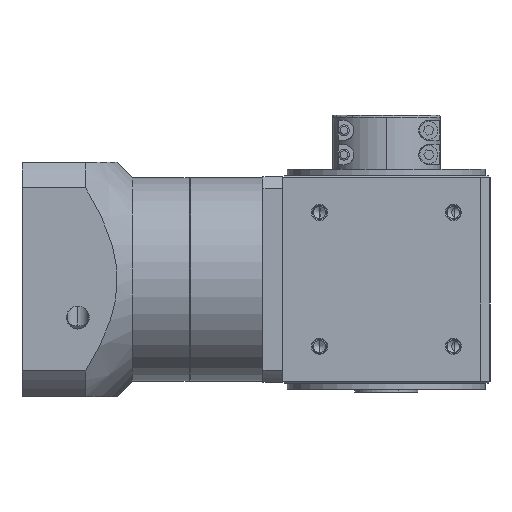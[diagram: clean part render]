
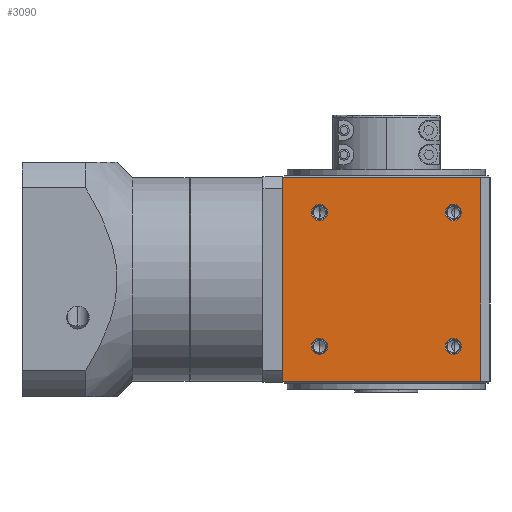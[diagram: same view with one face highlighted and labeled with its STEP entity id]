
A CAD part, front view. The second image highlights one B-rep face of the part: STEP entity #3090.
In plain terms, the highlighted planar face has unit normal (0, -1, 0).
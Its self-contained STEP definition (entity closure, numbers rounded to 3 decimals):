
#1702 = EDGE_CURVE ( 'NONE', #5080, #5050, #16520, .T. ) ;
#3015 = EDGE_LOOP ( 'NONE', ( #3085, #3089 ) ) ;
#3016 = EDGE_LOOP ( 'NONE', ( #3017, #3072 ) ) ;
#3017 = ORIENTED_EDGE ( 'NONE', *, *, #1702, .F. ) ;
#3066 = EDGE_CURVE ( 'NONE', #3069, #3078, #18999, .T. ) ;
#3068 = ORIENTED_EDGE ( 'NONE', *, *, #3066, .T. ) ;
#3069 = VERTEX_POINT ( 'NONE', #19054 ) ;
#3070 = EDGE_CURVE ( 'NONE', #3075, #3069, #19053, .T. ) ;
#3071 = EDGE_LOOP ( 'NONE', ( #3073, #3079, #3074, #3068 ) ) ;
#3072 = ORIENTED_EDGE ( 'NONE', *, *, #5079, .F. ) ;
#3073 = ORIENTED_EDGE ( 'NONE', *, *, #3077, .F. ) ;
#3074 = ORIENTED_EDGE ( 'NONE', *, *, #3070, .T. ) ;
#3075 = VERTEX_POINT ( 'NONE', #19049 ) ;
#3077 = EDGE_CURVE ( 'NONE', #3081, #3078, #19048, .T. ) ;
#3078 = VERTEX_POINT ( 'NONE', #19044 ) ;
#3079 = ORIENTED_EDGE ( 'NONE', *, *, #3080, .T. ) ;
#3080 = EDGE_CURVE ( 'NONE', #3081, #3075, #19043, .T. ) ;
#3081 = VERTEX_POINT ( 'NONE', #19039 ) ;
#3085 = ORIENTED_EDGE ( 'NONE', *, *, #3086, .F. ) ;
#3086 = EDGE_CURVE ( 'NONE', #3740, #3732, #19037, .T. ) ;
#3087 = EDGE_LOOP ( 'NONE', ( #3088, #3094 ) ) ;
#3088 = ORIENTED_EDGE ( 'NONE', *, *, #3095, .F. ) ;
#3089 = ORIENTED_EDGE ( 'NONE', *, *, #3742, .F. ) ;
#3090 = ADVANCED_FACE ( 'NONE', ( #19032, #19031, #19030, #19029, #19028 ), #19027, .F. ) ;
#3091 = EDGE_CURVE ( 'NONE', #4561, #4567, #19085, .T. ) ;
#3092 = ORIENTED_EDGE ( 'NONE', *, *, #4604, .F. ) ;
#3093 = ORIENTED_EDGE ( 'NONE', *, *, #3091, .F. ) ;
#3094 = ORIENTED_EDGE ( 'NONE', *, *, #3966, .F. ) ;
#3095 = EDGE_CURVE ( 'NONE', #3976, #3879, #19081, .T. ) ;
#3096 = EDGE_LOOP ( 'NONE', ( #3093, #3092 ) ) ;
#3732 = VERTEX_POINT ( 'NONE', #20405 ) ;
#3740 = VERTEX_POINT ( 'NONE', #20446 ) ;
#3742 = EDGE_CURVE ( 'NONE', #3732, #3740, #20445, .T. ) ;
#3879 = VERTEX_POINT ( 'NONE', #20761 ) ;
#3966 = EDGE_CURVE ( 'NONE', #3879, #3976, #20892, .T. ) ;
#3976 = VERTEX_POINT ( 'NONE', #20929 ) ;
#4561 = VERTEX_POINT ( 'NONE', #22139 ) ;
#4567 = VERTEX_POINT ( 'NONE', #22130 ) ;
#4604 = EDGE_CURVE ( 'NONE', #4567, #4561, #22215, .T. ) ;
#5050 = VERTEX_POINT ( 'NONE', #23954 ) ;
#5079 = EDGE_CURVE ( 'NONE', #5050, #5080, #24084, .T. ) ;
#5080 = VERTEX_POINT ( 'NONE', #24079 ) ;
#16518 = CARTESIAN_POINT ( 'NONE',  ( 37.123, -57.5, 98.123 ) ) ;
#16519 = AXIS2_PLACEMENT_3D ( 'NONE', #16518, #16582, #16581 ) ;
#16520 = CIRCLE ( 'NONE', #16519, 4.5 ) ;
#16581 = DIRECTION ( 'NONE',  ( 0., 0., 1. ) ) ;
#16582 = DIRECTION ( 'NONE',  ( 0., -1., 0. ) ) ;
#18996 = DIRECTION ( 'NONE',  ( -1., 0., 0. ) ) ;
#18997 = VECTOR ( 'NONE', #18996, 1000. ) ;
#18998 = CARTESIAN_POINT ( 'NONE',  ( -57.501, -57.5, 117.5 ) ) ;
#18999 = LINE ( 'NONE', #18998, #18997 ) ;
#19025 = CARTESIAN_POINT ( 'NONE',  ( -37.123, -57.5, 98.123 ) ) ;
#19026 = CARTESIAN_POINT ( 'NONE',  ( 57.5, -57.5, 122. ) ) ;
#19027 = PLANE ( 'NONE',  #19089 ) ;
#19028 = FACE_OUTER_BOUND ( 'NONE', #3071, .T. ) ;
#19029 = FACE_BOUND ( 'NONE', #3016, .T. ) ;
#19030 = FACE_BOUND ( 'NONE', #3096, .T. ) ;
#19031 = FACE_BOUND ( 'NONE', #3087, .T. ) ;
#19032 = FACE_BOUND ( 'NONE', #3015, .T. ) ;
#19033 = DIRECTION ( 'NONE',  ( 0., 0., 1. ) ) ;
#19034 = DIRECTION ( 'NONE',  ( 0., -1., 0. ) ) ;
#19035 = CARTESIAN_POINT ( 'NONE',  ( 37.123, -57.5, 23.877 ) ) ;
#19036 = AXIS2_PLACEMENT_3D ( 'NONE', #19035, #19034, #19033 ) ;
#19037 = CIRCLE ( 'NONE', #19036, 4.5 ) ;
#19039 = CARTESIAN_POINT ( 'NONE',  ( -57.501, -57.5, 4.5 ) ) ;
#19040 = DIRECTION ( 'NONE',  ( 1., 0., 0. ) ) ;
#19041 = VECTOR ( 'NONE', #19040, 1000. ) ;
#19042 = CARTESIAN_POINT ( 'NONE',  ( 52.5, -57.5, 4.5 ) ) ;
#19043 = LINE ( 'NONE', #19042, #19041 ) ;
#19044 = CARTESIAN_POINT ( 'NONE',  ( -57.501, -57.5, 117.5 ) ) ;
#19045 = DIRECTION ( 'NONE',  ( 0., 0., 1. ) ) ;
#19046 = VECTOR ( 'NONE', #19045, 1000. ) ;
#19047 = CARTESIAN_POINT ( 'NONE',  ( -57.501, -57.5, 118.5 ) ) ;
#19048 = LINE ( 'NONE', #19047, #19046 ) ;
#19049 = CARTESIAN_POINT ( 'NONE',  ( 52.5, -57.5, 4.5 ) ) ;
#19050 = DIRECTION ( 'NONE',  ( 0., 0., 1. ) ) ;
#19051 = VECTOR ( 'NONE', #19050, 1000. ) ;
#19052 = CARTESIAN_POINT ( 'NONE',  ( 52.5, -57.5, 122. ) ) ;
#19053 = LINE ( 'NONE', #19052, #19051 ) ;
#19054 = CARTESIAN_POINT ( 'NONE',  ( 52.5, -57.5, 117.5 ) ) ;
#19077 = DIRECTION ( 'NONE',  ( 0., 0., 1. ) ) ;
#19078 = DIRECTION ( 'NONE',  ( 0., -1., 0. ) ) ;
#19079 = CARTESIAN_POINT ( 'NONE',  ( -37.123, -57.5, 23.877 ) ) ;
#19080 = AXIS2_PLACEMENT_3D ( 'NONE', #19079, #19078, #19077 ) ;
#19081 = CIRCLE ( 'NONE', #19080, 4.5 ) ;
#19082 = DIRECTION ( 'NONE',  ( 0., 0., 1. ) ) ;
#19083 = DIRECTION ( 'NONE',  ( 0., -1., 0. ) ) ;
#19084 = AXIS2_PLACEMENT_3D ( 'NONE', #19025, #19083, #19082 ) ;
#19085 = CIRCLE ( 'NONE', #19084, 4.5 ) ;
#19087 = DIRECTION ( 'NONE',  ( 0., 0., -1. ) ) ;
#19088 = DIRECTION ( 'NONE',  ( 0., 1., 0. ) ) ;
#19089 = AXIS2_PLACEMENT_3D ( 'NONE', #19026, #19088, #19087 ) ;
#20405 = CARTESIAN_POINT ( 'NONE',  ( 37.123, -57.5, 19.377 ) ) ;
#20441 = DIRECTION ( 'NONE',  ( 0., 0., 1. ) ) ;
#20442 = DIRECTION ( 'NONE',  ( 0., -1., 0. ) ) ;
#20443 = CARTESIAN_POINT ( 'NONE',  ( 37.123, -57.5, 23.877 ) ) ;
#20444 = AXIS2_PLACEMENT_3D ( 'NONE', #20443, #20442, #20441 ) ;
#20445 = CIRCLE ( 'NONE', #20444, 4.5 ) ;
#20446 = CARTESIAN_POINT ( 'NONE',  ( 37.123, -57.5, 28.377 ) ) ;
#20761 = CARTESIAN_POINT ( 'NONE',  ( -37.123, -57.5, 19.377 ) ) ;
#20888 = DIRECTION ( 'NONE',  ( 0., 0., 1. ) ) ;
#20889 = DIRECTION ( 'NONE',  ( 0., -1., 0. ) ) ;
#20890 = CARTESIAN_POINT ( 'NONE',  ( -37.123, -57.5, 23.877 ) ) ;
#20891 = AXIS2_PLACEMENT_3D ( 'NONE', #20890, #20889, #20888 ) ;
#20892 = CIRCLE ( 'NONE', #20891, 4.5 ) ;
#20929 = CARTESIAN_POINT ( 'NONE',  ( -37.123, -57.5, 28.377 ) ) ;
#22130 = CARTESIAN_POINT ( 'NONE',  ( -37.123, -57.5, 93.623 ) ) ;
#22139 = CARTESIAN_POINT ( 'NONE',  ( -37.123, -57.5, 102.623 ) ) ;
#22213 = DIRECTION ( 'NONE',  ( 0., -1., 0. ) ) ;
#22214 = AXIS2_PLACEMENT_3D ( 'NONE', #22231, #22213, #22274 ) ;
#22215 = CIRCLE ( 'NONE', #22214, 4.5 ) ;
#22231 = CARTESIAN_POINT ( 'NONE',  ( -37.123, -57.5, 98.123 ) ) ;
#22274 = DIRECTION ( 'NONE',  ( 0., 0., 1. ) ) ;
#23954 = CARTESIAN_POINT ( 'NONE',  ( 37.123, -57.5, 93.623 ) ) ;
#24079 = CARTESIAN_POINT ( 'NONE',  ( 37.123, -57.5, 102.623 ) ) ;
#24080 = DIRECTION ( 'NONE',  ( 0., 0., 1. ) ) ;
#24081 = DIRECTION ( 'NONE',  ( 0., -1., 0. ) ) ;
#24082 = CARTESIAN_POINT ( 'NONE',  ( 37.123, -57.5, 98.123 ) ) ;
#24083 = AXIS2_PLACEMENT_3D ( 'NONE', #24082, #24081, #24080 ) ;
#24084 = CIRCLE ( 'NONE', #24083, 4.5 ) ;
